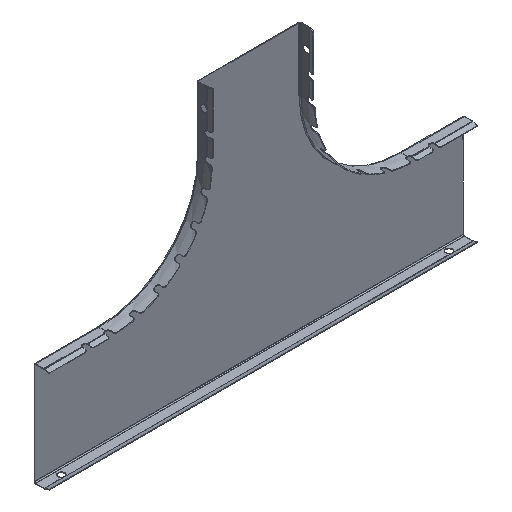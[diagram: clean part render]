
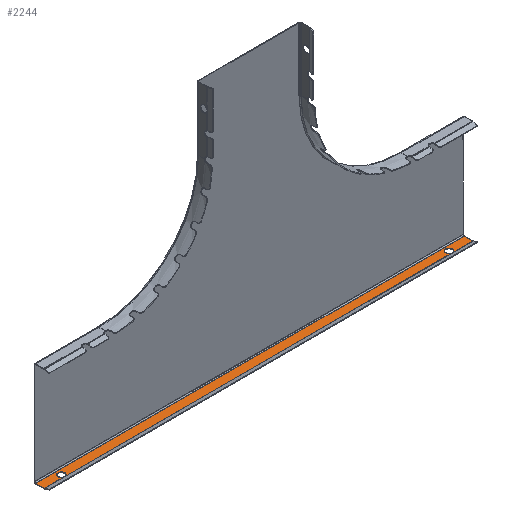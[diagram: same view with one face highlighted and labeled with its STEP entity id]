
A CAD part, isometric view. The second image highlights one B-rep face of the part: STEP entity #2244.
In plain terms, the highlighted planar face has unit normal (0, 0, 1).
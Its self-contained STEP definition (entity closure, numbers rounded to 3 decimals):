
#141 = VECTOR ( 'NONE', #13352, 1000. ) ;
#697 = EDGE_CURVE ( 'NONE', #15204, #5646, #9159, .T. ) ;
#755 = DIRECTION ( 'NONE',  ( 0., 1., 0. ) ) ;
#888 = VECTOR ( 'NONE', #7863, 1000. ) ;
#1440 = CARTESIAN_POINT ( 'NONE',  ( 189.564, -9.3, -50.8 ) ) ;
#1441 = ORIENTED_EDGE ( 'NONE', *, *, #3815, .F. ) ;
#2244 = ADVANCED_FACE ( 'NONE', ( #12798 ), #12619, .T. ) ;
#2469 = LINE ( 'NONE', #14808, #141 ) ;
#2865 = EDGE_CURVE ( 'NONE', #5646, #5731, #7941, .T. ) ;
#2884 = EDGE_CURVE ( 'NONE', #9661, #15204, #2469, .T. ) ;
#2909 = EDGE_CURVE ( 'NONE', #5731, #4852, #10253, .T. ) ;
#3192 = DIRECTION ( 'NONE',  ( 0., 0., 1. ) ) ;
#3193 = CARTESIAN_POINT ( 'NONE',  ( -190., -2.829, -50.8 ) ) ;
#3505 = VERTEX_POINT ( 'NONE', #3193 ) ;
#3738 = DIRECTION ( 'NONE',  ( 0., -1., 0. ) ) ;
#3815 = EDGE_CURVE ( 'NONE', #3505, #8958, #5125, .T. ) ;
#3830 = DIRECTION ( 'NONE',  ( 0., 0., 1. ) ) ;
#3960 = CARTESIAN_POINT ( 'NONE',  ( 210., -0.8, -50.8 ) ) ;
#3967 = ORIENTED_EDGE ( 'NONE', *, *, #16083, .F. ) ;
#4752 = AXIS2_PLACEMENT_3D ( 'NONE', #16158, #10897, #3738 ) ;
#4852 = VERTEX_POINT ( 'NONE', #1440 ) ;
#4907 = VECTOR ( 'NONE', #7047, 1000. ) ;
#5125 = CIRCLE ( 'NONE', #14695, 3.25 ) ;
#5500 = EDGE_CURVE ( 'NONE', #7632, #8919, #14546, .T. ) ;
#5646 = VERTEX_POINT ( 'NONE', #12457 ) ;
#5681 = LINE ( 'NONE', #8406, #4907 ) ;
#5731 = VERTEX_POINT ( 'NONE', #17811 ) ;
#5904 = DIRECTION ( 'NONE',  ( 0., -1., 0. ) ) ;
#6149 = ORIENTED_EDGE ( 'NONE', *, *, #5500, .F. ) ;
#6353 = DIRECTION ( 'NONE',  ( -1., 0., 0. ) ) ;
#6726 = CARTESIAN_POINT ( 'NONE',  ( -210., -0.8, -50.8 ) ) ;
#7047 = DIRECTION ( 'NONE',  ( -1., 0., 0. ) ) ;
#7086 = AXIS2_PLACEMENT_3D ( 'NONE', #11349, #10064, #14073 ) ;
#7273 = ORIENTED_EDGE ( 'NONE', *, *, #697, .F. ) ;
#7632 = VERTEX_POINT ( 'NONE', #10939 ) ;
#7863 = DIRECTION ( 'NONE',  ( -1., 0., 0. ) ) ;
#7903 = DIRECTION ( 'NONE',  ( 0., -1., 0. ) ) ;
#7932 = DIRECTION ( 'NONE',  ( 0., 0., 1. ) ) ;
#7941 = CIRCLE ( 'NONE', #14613, 3.25 ) ;
#8406 = CARTESIAN_POINT ( 'NONE',  ( -210., -9.3, -50.8 ) ) ;
#8652 = ORIENTED_EDGE ( 'NONE', *, *, #10257, .F. ) ;
#8919 = VERTEX_POINT ( 'NONE', #17000 ) ;
#8958 = VERTEX_POINT ( 'NONE', #12571 ) ;
#9045 = VECTOR ( 'NONE', #6353, 1000. ) ;
#9093 = CARTESIAN_POINT ( 'NONE',  ( -189.564, -9.3, -50.8 ) ) ;
#9159 = LINE ( 'NONE', #14797, #9045 ) ;
#9278 = CARTESIAN_POINT ( 'NONE',  ( -210., 0., -50.8 ) ) ;
#9661 = VERTEX_POINT ( 'NONE', #3960 ) ;
#10064 = DIRECTION ( 'NONE',  ( 0., 0., 1. ) ) ;
#10253 = CIRCLE ( 'NONE', #4752, 3.25 ) ;
#10257 = EDGE_CURVE ( 'NONE', #8958, #7632, #5681, .T. ) ;
#10309 = EDGE_LOOP ( 'NONE', ( #3967, #11576, #11791, #12424, #7273, #15356, #16993, #6149, #8652, #1441 ) ) ;
#10897 = DIRECTION ( 'NONE',  ( 0., 0., 1. ) ) ;
#10939 = CARTESIAN_POINT ( 'NONE',  ( -210., -9.3, -50.8 ) ) ;
#11349 = CARTESIAN_POINT ( 'NONE',  ( -210., 0., -50.8 ) ) ;
#11576 = ORIENTED_EDGE ( 'NONE', *, *, #12381, .F. ) ;
#11791 = ORIENTED_EDGE ( 'NONE', *, *, #2909, .F. ) ;
#12127 = CIRCLE ( 'NONE', #16469, 3.25 ) ;
#12381 = EDGE_CURVE ( 'NONE', #4852, #13313, #15853, .T. ) ;
#12424 = ORIENTED_EDGE ( 'NONE', *, *, #2865, .F. ) ;
#12457 = CARTESIAN_POINT ( 'NONE',  ( 190.436, -9.3, -50.8 ) ) ;
#12571 = CARTESIAN_POINT ( 'NONE',  ( -190.436, -9.3, -50.8 ) ) ;
#12619 = PLANE ( 'NONE',  #7086 ) ;
#12798 = FACE_OUTER_BOUND ( 'NONE', #10309, .T. ) ;
#12804 = CARTESIAN_POINT ( 'NONE',  ( -190., -6.079, -50.8 ) ) ;
#13222 = CARTESIAN_POINT ( 'NONE',  ( -210., -9.3, -50.8 ) ) ;
#13313 = VERTEX_POINT ( 'NONE', #9093 ) ;
#13352 = DIRECTION ( 'NONE',  ( 0., -1., 0. ) ) ;
#13467 = DIRECTION ( 'NONE',  ( 0., -1., 0. ) ) ;
#14073 = DIRECTION ( 'NONE',  ( 0., -1., 0. ) ) ;
#14311 = CARTESIAN_POINT ( 'NONE',  ( 210., -9.3, -50.8 ) ) ;
#14546 = LINE ( 'NONE', #9278, #16736 ) ;
#14613 = AXIS2_PLACEMENT_3D ( 'NONE', #16341, #3830, #7903 ) ;
#14695 = AXIS2_PLACEMENT_3D ( 'NONE', #16187, #7932, #13467 ) ;
#14797 = CARTESIAN_POINT ( 'NONE',  ( -210., -9.3, -50.8 ) ) ;
#14808 = CARTESIAN_POINT ( 'NONE',  ( 210., -9.3, -50.8 ) ) ;
#14983 = DIRECTION ( 'NONE',  ( 1., 0., 0. ) ) ;
#15204 = VERTEX_POINT ( 'NONE', #14311 ) ;
#15356 = ORIENTED_EDGE ( 'NONE', *, *, #2884, .F. ) ;
#15789 = EDGE_CURVE ( 'NONE', #8919, #9661, #16160, .T. ) ;
#15853 = LINE ( 'NONE', #13222, #888 ) ;
#16083 = EDGE_CURVE ( 'NONE', #13313, #3505, #12127, .T. ) ;
#16158 = CARTESIAN_POINT ( 'NONE',  ( 190., -6.079, -50.8 ) ) ;
#16160 = LINE ( 'NONE', #6726, #16177 ) ;
#16177 = VECTOR ( 'NONE', #14983, 1000. ) ;
#16187 = CARTESIAN_POINT ( 'NONE',  ( -190., -6.079, -50.8 ) ) ;
#16341 = CARTESIAN_POINT ( 'NONE',  ( 190., -6.079, -50.8 ) ) ;
#16469 = AXIS2_PLACEMENT_3D ( 'NONE', #12804, #3192, #5904 ) ;
#16736 = VECTOR ( 'NONE', #755, 1000. ) ;
#16993 = ORIENTED_EDGE ( 'NONE', *, *, #15789, .F. ) ;
#17000 = CARTESIAN_POINT ( 'NONE',  ( -210., -0.8, -50.8 ) ) ;
#17811 = CARTESIAN_POINT ( 'NONE',  ( 190., -2.829, -50.8 ) ) ;
